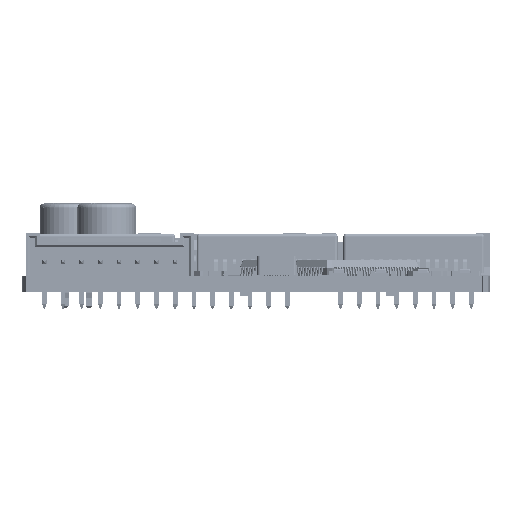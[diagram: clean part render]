
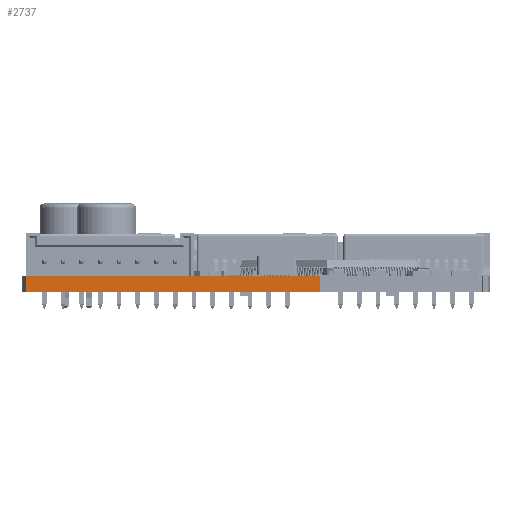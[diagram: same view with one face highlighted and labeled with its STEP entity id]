
A CAD part, front view. The second image highlights one B-rep face of the part: STEP entity #2737.
In plain terms, the highlighted planar face has unit normal (0, -1, 0).
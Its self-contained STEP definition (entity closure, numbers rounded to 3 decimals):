
#531 = EDGE_CURVE('',#532,#534,#536,.T.);
#532 = VERTEX_POINT('',#533);
#533 = CARTESIAN_POINT('',(42.558,20.714,0.));
#534 = VERTEX_POINT('',#535);
#535 = CARTESIAN_POINT('',(42.558,20.714,1.684
    ));
#536 = LINE('',#537,#538);
#537 = CARTESIAN_POINT('',(42.558,20.714,0.));
#538 = VECTOR('',#539,1.);
#539 = DIRECTION('',(0.,0.,1.));
#716 = VERTEX_POINT('',#717);
#717 = CARTESIAN_POINT('',(74.048,20.714,0.));
#723 = EDGE_CURVE('',#716,#532,#724,.T.);
#724 = LINE('',#725,#726);
#725 = CARTESIAN_POINT('',(74.048,20.714,0.));
#726 = VECTOR('',#727,1.);
#727 = DIRECTION('',(-1.,0.,0.));
#1789 = VERTEX_POINT('',#1790);
#1790 = CARTESIAN_POINT('',(74.048,20.714,
    1.684));
#1796 = EDGE_CURVE('',#1789,#534,#1797,.T.);
#1797 = LINE('',#1798,#1799);
#1798 = CARTESIAN_POINT('',(74.048,20.714,
    1.684));
#1799 = VECTOR('',#1800,1.);
#1800 = DIRECTION('',(-1.,0.,0.));
#2737 = ADVANCED_FACE('',(#2738),#2749,.T.);
#2738 = FACE_BOUND('',#2739,.T.);
#2739 = EDGE_LOOP('',(#2740,#2746,#2747,#2748));
#2740 = ORIENTED_EDGE('',*,*,#2741,.T.);
#2741 = EDGE_CURVE('',#716,#1789,#2742,.T.);
#2742 = LINE('',#2743,#2744);
#2743 = CARTESIAN_POINT('',(74.048,20.714,0.));
#2744 = VECTOR('',#2745,1.);
#2745 = DIRECTION('',(0.,0.,1.));
#2746 = ORIENTED_EDGE('',*,*,#1796,.T.);
#2747 = ORIENTED_EDGE('',*,*,#531,.F.);
#2748 = ORIENTED_EDGE('',*,*,#723,.F.);
#2749 = PLANE('',#2750);
#2750 = AXIS2_PLACEMENT_3D('',#2751,#2752,#2753);
#2751 = CARTESIAN_POINT('',(74.048,20.714,0.));
#2752 = DIRECTION('',(0.,-1.,0.));
#2753 = DIRECTION('',(-1.,0.,0.));
